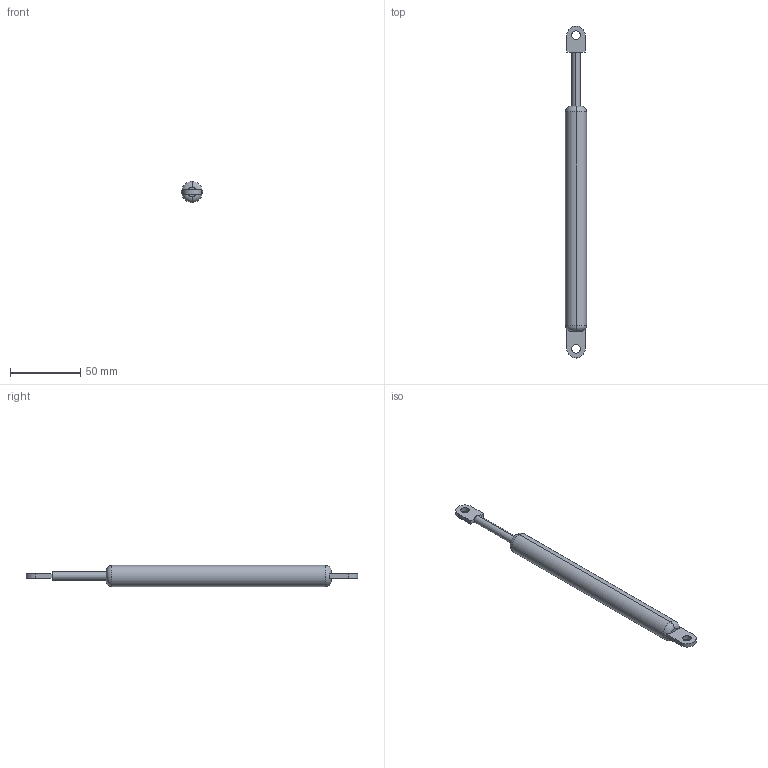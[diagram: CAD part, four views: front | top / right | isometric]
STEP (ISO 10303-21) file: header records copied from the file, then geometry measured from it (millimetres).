
FILE_DESCRIPTION (( 'STEP AP203' ), '1' );
FILE_NAME ('084.527.008.STEP', '2018-03-09T14:25:33', ( '' ), ( '' ), 'SwSTEP 2.0', 'SolidWorks 2016', '' );
FILE_SCHEMA (( 'CONFIG_CONTROL_DESIGN' ));
Length unit declared in the file: millimetre
Products named in the file (3): 082694 - CORPO; 084.527.008; 082694 - STELO
Assembly tree (2 placements, depth 2):
  084.527.008
    082694 - CORPO
    082694 - STELO
Bounding box: 15 x 236 x 15 mm (x, y, z)
Volume: 34406.4 mm3; surface area: 12408.7 mm2
Topology: 2 solids, 2 shells, 30 faces, 70 edges, 44 vertices
Faces by surface type: plane 16, cylinder 10, torus 4
Entity records: 1219 total; most frequent: CARTESIAN_POINT 203, DIRECTION 168, ORIENTED_EDGE 140, EDGE_CURVE 70, AXIS2_PLACEMENT_3D 69, VERTEX_POINT 44, CIRCLE 34, EDGE_LOOP 34
